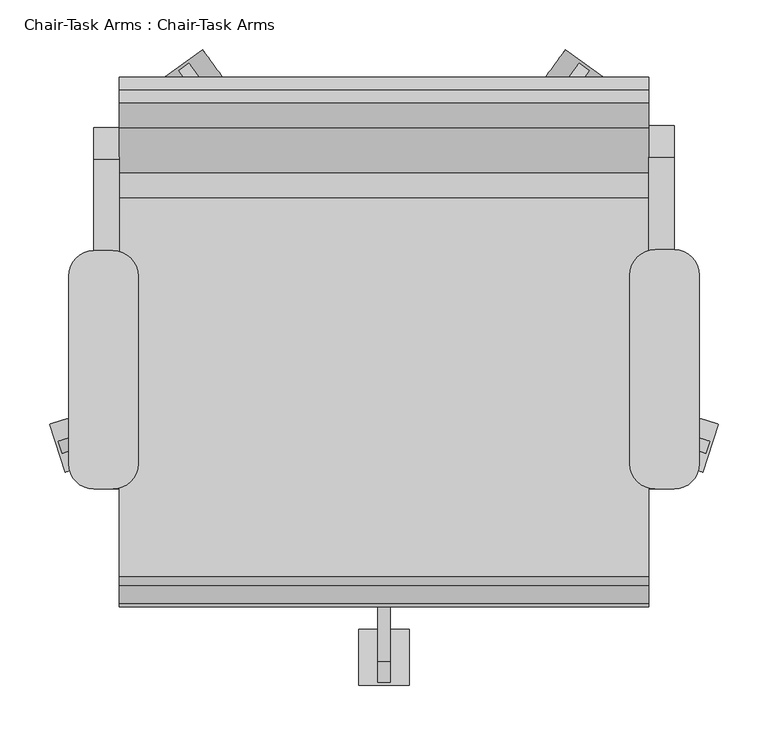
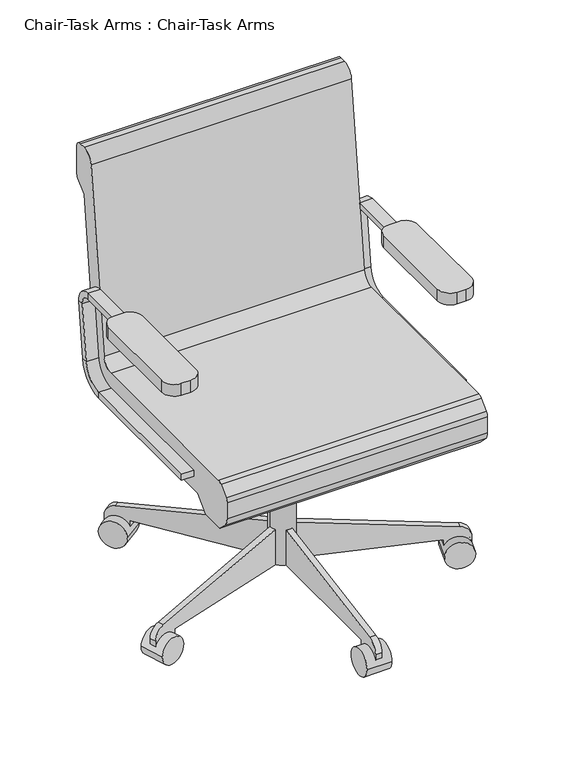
"""IFC4 building model written with IfcOpenShell, lengths in millimetres: furniture geometry, Chair-Task Arms : Chair-Task Arms."""

from ifc_helpers import new_model, si_unit, point, frame, frame_2d, origin, place, context, project, spatial, polyline, circle_curve, trimmed, segment, composite_curve, outline, extrude, source, transform, mapped, element, save
from ifc_brep_helpers import plane_surface, cylinder_surface, revolved_surface, advanced_brep


def chair_task_arms_chair_task_arms_3c69ee15(model_context):
    return source(origin(), model_context, "Body", "SolidModel", [
        extrude(outline(composite_curve([segment(trimmed(circle_curve(frame_2d((433.0908197, 48.8028048)), 25.4), [point((433.0908197, 74.2028048))], [point((458.4908197, 48.8028048))], False, "CARTESIAN"), True, "CONTINUOUS"), segment(polyline([(458.4908197, 48.8028048), (458.4908197, -141.6319091)]), True, "CONTINUOUS"), segment(trimmed(circle_curve(frame_2d((433.0908197, -141.6319091)), 25.4), [point((458.4908197, -141.6319091))], [point((433.0908197, -167.0319091))], False, "CARTESIAN"), True, "CONTINUOUS"), segment(polyline([(433.0908197, -167.0319091), (414.0408197, -167.0319091)]), True, "CONTINUOUS"), segment(trimmed(circle_curve(frame_2d((414.0408197, -141.6319091)), 25.4), [point((414.0408197, -167.0319091))], [point((388.6408197, -141.6319091))], False, "CARTESIAN"), True, "CONTINUOUS"), segment(polyline([(388.6408197, -141.6319091), (388.6408197, 48.8028048)]), True, "CONTINUOUS"), segment(trimmed(circle_curve(frame_2d((414.0408197, 48.8028048)), 25.4), [point((388.6408197, 48.8028048))], [point((414.0408197, 74.2028048))], False, "CARTESIAN"), True, "CONTINUOUS"), segment(polyline([(414.0408197, 74.2028048), (433.0908197, 74.2028048)]), True, "CONTINUOUS")], self_intersect=False)), frame((0.0, 0.0, 596.9), z_axis=(0.0, 0.0, 1.0), x_axis=(1.0, 0.0, 0.0)), (0.0, 0.0, 1.0), 25.4),
        extrude(outline(composite_curve([segment(trimmed(circle_curve(frame_2d((-132.0591803, 47.7575984)), 25.4), [point((-132.0591803, 73.1575984))], [point((-106.6591803, 47.7575984))], False, "CARTESIAN"), True, "CONTINUOUS"), segment(polyline([(-106.6591803, 47.7575984), (-106.6591803, -141.6319091)]), True, "CONTINUOUS"), segment(trimmed(circle_curve(frame_2d((-132.0591803, -141.6319091)), 25.4), [point((-106.6591803, -141.6319091))], [point((-132.0591803, -167.0319091))], False, "CARTESIAN"), True, "CONTINUOUS"), segment(polyline([(-132.0591803, -167.0319091), (-151.1091803, -167.0319091)]), True, "CONTINUOUS"), segment(trimmed(circle_curve(frame_2d((-151.1091803, -141.6319091)), 25.4), [point((-151.1091803, -167.0319091))], [point((-176.5091803, -141.6319091))], False, "CARTESIAN"), True, "CONTINUOUS"), segment(polyline([(-176.5091803, -141.6319091), (-176.5091803, 47.7575984)]), True, "CONTINUOUS"), segment(trimmed(circle_curve(frame_2d((-151.1091803, 47.7575984)), 25.4), [point((-176.5091803, 47.7575984))], [point((-151.1091803, 73.1575984))], False, "CARTESIAN"), True, "CONTINUOUS"), segment(polyline([(-151.1091803, 73.1575984), (-132.0591803, 73.1575984)]), True, "CONTINUOUS")], self_intersect=False)), frame((0.0, 0.0, 596.9), z_axis=(0.0, 0.0, 1.0), x_axis=(1.0, 0.0, 0.0)), (0.0, 0.0, 1.0), 25.4),
        advanced_brep(
        [(-151.1091803, -167.0319091, 412.75), (-125.7091803, -167.0319091, 412.75), (-125.7091803, -167.0319091, 425.45), (-151.1091803, -167.0319091, 425.45), (-151.1091803, 126.2388651, 425.45), (-151.1091803, 126.2388651, 412.75), (-125.7091803, 126.2388651, 425.45), (-125.7091803, 126.2388651, 412.75), (-151.1091803, 170.3844094, 464.7064065), (-151.1091803, 182.9974221, 463.2225227), (-125.7091803, 170.3844094, 464.7064065), (-125.7091803, 182.9974221, 463.2225227), (-151.1091803, 184.1806174, 581.9741742), (-151.1091803, 196.7936301, 580.4902904), (-125.7091803, 184.1806174, 581.9741742), (-125.7091803, 196.7936301, 580.4902904), (-151.1091803, 165.2610984, 603.25), (-151.1091803, 165.2610984, 615.95), (-125.7091803, 165.2610984, 603.25), (-125.7091803, 165.2610984, 615.95), (-151.1091803, -18.9459016, 615.95), (-151.1091803, -18.9459016, 603.25), (-125.7091803, -18.9459016, 603.25), (-125.7091803, -18.9459016, 615.95)],
        [
            (0, 1),
            (1, 2),
            (2, 3),
            (3, 0),
            (3, 4),
            (4, 5),
            (5, 0),
            (2, 6),
            (6, 4),
            (1, 7),
            (7, 6),
            (5, 7),
            (8, 9),
            (9, 5, circle_curve(frame((-151.1091803, 126.2388651, 469.9), z_axis=(-1.0, 0.0, 0.0), x_axis=(0.0, 0.0, -1.0)), 57.15)),
            (4, 8, circle_curve(frame((-151.1091803, 126.2388651, 469.9), z_axis=(1.0, 0.0, 0.0), x_axis=(0.0, 0.0, -1.0)), 44.45)),
            (10, 8),
            (6, 10, circle_curve(frame((-125.7091803, 126.2388651, 469.9), z_axis=(1.0, 0.0, 0.0), x_axis=(0.0, 0.0, -1.0)), 44.45)),
            (11, 10),
            (7, 11, circle_curve(frame((-125.7091803, 126.2388651, 469.9), z_axis=(1.0, 0.0, 0.0), x_axis=(0.0, 0.0, -1.0)), 57.15)),
            (9, 11),
            (8, 12),
            (12, 13),
            (13, 9),
            (10, 14),
            (14, 12),
            (11, 15),
            (15, 14),
            (13, 15),
            (16, 17),
            (17, 13, circle_curve(frame((-151.1091803, 165.2610984, 584.2), z_axis=(-1.0, 0.0, 0.0), x_axis=(0.0, 0.9931506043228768, -0.11684124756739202)), 31.75)),
            (12, 16, circle_curve(frame((-151.1091803, 165.2610984, 584.2), z_axis=(1.0, 0.0, 0.0), x_axis=(0.0, 0.9931506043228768, -0.11684124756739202)), 19.05)),
            (18, 16),
            (14, 18, circle_curve(frame((-125.7091803, 165.2610984, 584.2), z_axis=(1.0, 0.0, 0.0), x_axis=(0.0, 0.9931506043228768, -0.11684124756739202)), 19.05)),
            (19, 18),
            (15, 19, circle_curve(frame((-125.7091803, 165.2610984, 584.2), z_axis=(1.0, 0.0, 0.0), x_axis=(0.0, 0.9931506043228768, -0.11684124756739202)), 31.75)),
            (17, 19),
            (20, 21),
            (21, 22),
            (22, 23),
            (23, 20),
            (16, 21),
            (20, 17),
            (18, 22),
            (19, 23),
        ],
        [
            plane_surface(frame((-152.608212, -167.0319091, 419.1), z_axis=(0.0, -1.0, 0.0), x_axis=(0.0, 0.0, -1.0))),
            plane_surface(frame((-151.1091803, -167.0319091, 412.75), z_axis=(-1.0, 0.0, 0.0), x_axis=(0.0, 1.0, 0.0))),
            plane_surface(frame((-151.1091803, -167.0319091, 425.45), z_axis=(0.0, 0.0, 1.0), x_axis=(0.0, 1.0, 0.0))),
            plane_surface(frame((-125.7091803, -167.0319091, 425.45), z_axis=(1.0, 0.0, 0.0), x_axis=(0.0, 1.0, 0.0))),
            plane_surface(frame((-125.7091803, -167.0319091, 412.75), z_axis=(0.0, 0.0, -1.0), x_axis=(0.0, 1.0, 0.0))),
            plane_surface(frame((-151.1091803, 126.2388651, 469.9), z_axis=(-1.0, 0.0, 0.0), x_axis=(0.0, 0.0, -1.0))),
            revolved_surface(polyline([(-151.1091803, 126.2388651, 425.45), (-125.7091803, 126.2388651, 425.45)]), (-138.4091803, 126.2388651, 469.9), (-1.0, 0.0, 0.0)),
            plane_surface(frame((-125.7091803, 126.2388651, 469.9), z_axis=(1.0, 0.0, 0.0), x_axis=(0.0, 0.0, -1.0))),
            cylinder_surface(frame((-138.4091803, 126.2388651, 469.9), z_axis=(-1.0, 0.0, 0.0), x_axis=(0.0, 0.0, -1.0)), 57.15),
            plane_surface(frame((-151.1091803, 182.9974221, 463.2225227), z_axis=(-1.0, 0.0, 0.0), x_axis=(0.0, 0.1168412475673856, 0.9931506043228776))),
            plane_surface(frame((-151.1091803, 170.3844094, 464.7064065), z_axis=(0.0, -0.9931506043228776, 0.1168412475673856), x_axis=(0.0, 0.1168412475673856, 0.9931506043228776))),
            plane_surface(frame((-125.7091803, 170.3844094, 464.7064065), z_axis=(1.0, 0.0, 0.0), x_axis=(0.0, 0.1168412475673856, 0.9931506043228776))),
            plane_surface(frame((-125.7091803, 182.9974221, 463.2225227), z_axis=(0.0, 0.9931506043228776, -0.1168412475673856), x_axis=(0.0, 0.1168412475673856, 0.9931506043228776))),
            plane_surface(frame((-151.1091803, 165.2610984, 584.2), z_axis=(-1.0, 0.0, 0.0), x_axis=(0.0, 0.9931506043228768, -0.11684124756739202))),
            revolved_surface(polyline([(-151.1091803, 184.1806174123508, 581.9741742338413), (-125.7091803, 184.1806174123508, 581.9741742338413)]), (-138.4091803, 165.2610984, 584.2), (-1.0, 0.0, 0.0)),
            plane_surface(frame((-125.7091803, 165.2610984, 584.2), z_axis=(1.0, 0.0, 0.0), x_axis=(0.0, 0.9931506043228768, -0.11684124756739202))),
            cylinder_surface(frame((-138.4091803, 165.2610984, 584.2), z_axis=(-1.0, 0.0, 0.0), x_axis=(0.0, 0.9931506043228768, -0.11684124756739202)), 31.75),
            plane_surface(frame((-152.608212, -18.9459016, 609.6), z_axis=(0.0, -1.0, 0.0), x_axis=(0.0, 0.0, 1.0))),
            plane_surface(frame((-151.1091803, 165.2610984, 615.95), z_axis=(-1.0, 0.0, 0.0), x_axis=(0.0, -1.0, 0.0))),
            plane_surface(frame((-151.1091803, 165.2610984, 603.25), z_axis=(0.0, 0.0, -1.0), x_axis=(0.0, -1.0, 0.0))),
            plane_surface(frame((-125.7091803, 165.2610984, 603.25), z_axis=(1.0, 0.0, 0.0), x_axis=(0.0, -1.0, 0.0))),
            plane_surface(frame((-125.7091803, 165.2610984, 615.95), z_axis=(0.0, 0.0, 1.0), x_axis=(0.0, -1.0, 0.0))),
        ],
        [
            (0, [[1, 2, 3, 4]]),
            (1, [[5, 6, 7, -4]]),
            (2, [[8, 9, -5, -3]]),
            (3, [[10, 11, -8, -2]]),
            (4, [[-7, 12, -10, -1]]),
            (5, [[13, 14, -6, 15]]),
            (6, [[16, -15, -9, 17]]),
            (7, [[18, -17, -11, 19]]),
            (8, [[20, -19, -12, -14]]),
            (9, [[21, 22, 23, -13]]),
            (10, [[24, 25, -21, -16]]),
            (11, [[26, 27, -24, -18]]),
            (12, [[-23, 28, -26, -20]]),
            (13, [[29, 30, -22, 31]]),
            (14, [[32, -31, -25, 33]]),
            (15, [[34, -33, -27, 35]]),
            (16, [[36, -35, -28, -30]]),
            (17, [[37, 38, 39, 40]]),
            (18, [[41, -37, 42, -29]]),
            (19, [[43, -38, -41, -32]]),
            (20, [[44, -39, -43, -34]]),
            (21, [[-42, -40, -44, -36]]),
        ],
    ),
        advanced_brep(
        [(433.0908197, -167.0319091, 425.45), (407.6908197, -167.0319091, 425.45), (407.6908197, -167.0319091, 412.75), (433.0908197, -167.0319091, 412.75), (433.0908197, 128.329278, 412.75), (433.0908197, 128.329278, 425.45), (407.6908197, 128.329278, 412.75), (407.6908197, 128.329278, 425.45), (433.0908197, 185.0878351, 463.2225227), (433.0908197, 172.4748224, 464.7064065), (407.6908197, 185.0878351, 463.2225227), (407.6908197, 172.4748224, 464.7064065), (433.0908197, 198.884043, 580.4902904), (433.0908197, 186.2710303, 581.9741742), (407.6908197, 198.884043, 580.4902904), (407.6908197, 186.2710303, 581.9741742), (433.0908197, 167.3515113, 615.95), (433.0908197, 167.3515113, 603.25), (407.6908197, 167.3515113, 615.95), (407.6908197, 167.3515113, 603.25), (433.0908197, -18.9459016, 603.25), (433.0908197, -18.9459016, 615.95), (407.6908197, -18.9459016, 615.95), (407.6908197, -18.9459016, 603.25)],
        [
            (0, 1),
            (1, 2),
            (2, 3),
            (3, 0),
            (3, 4),
            (4, 5),
            (5, 0),
            (2, 6),
            (6, 4),
            (1, 7),
            (7, 6),
            (5, 7),
            (8, 9),
            (9, 5, circle_curve(frame((433.0908197, 128.329278, 469.9), z_axis=(-1.0, 0.0, 0.0), x_axis=(0.0, 0.0, -1.0)), 44.45)),
            (4, 8, circle_curve(frame((433.0908197, 128.329278, 469.9), z_axis=(1.0, 0.0, 0.0), x_axis=(0.0, 0.0, -1.0)), 57.15)),
            (10, 8),
            (6, 10, circle_curve(frame((407.6908197, 128.329278, 469.9), z_axis=(1.0, 0.0, 0.0), x_axis=(0.0, 0.0, -1.0)), 57.15)),
            (11, 10),
            (7, 11, circle_curve(frame((407.6908197, 128.329278, 469.9), z_axis=(1.0, 0.0, 0.0), x_axis=(0.0, 0.0, -1.0)), 44.45)),
            (9, 11),
            (8, 12),
            (12, 13),
            (13, 9),
            (10, 14),
            (14, 12),
            (11, 15),
            (15, 14),
            (13, 15),
            (16, 17),
            (17, 13, circle_curve(frame((433.0908197, 167.3515113, 584.2), z_axis=(-1.0, 0.0, 0.0), x_axis=(0.0, 0.9931506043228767, -0.1168412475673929)), 19.05)),
            (12, 16, circle_curve(frame((433.0908197, 167.3515113, 584.2), z_axis=(1.0, 0.0, 0.0), x_axis=(0.0, 0.9931506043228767, -0.1168412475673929)), 31.75)),
            (18, 16),
            (14, 18, circle_curve(frame((407.6908197, 167.3515113, 584.2), z_axis=(1.0, 0.0, 0.0), x_axis=(0.0, 0.9931506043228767, -0.1168412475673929)), 31.75)),
            (19, 18),
            (15, 19, circle_curve(frame((407.6908197, 167.3515113, 584.2), z_axis=(1.0, 0.0, 0.0), x_axis=(0.0, 0.9931506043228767, -0.1168412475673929)), 19.05)),
            (17, 19),
            (20, 21),
            (21, 22),
            (22, 23),
            (23, 20),
            (16, 21),
            (20, 17),
            (18, 22),
            (19, 23),
        ],
        [
            plane_surface(frame((406.191788, -167.0319091, 419.1), z_axis=(0.0, -1.0, 0.0), x_axis=(0.0, 0.0, -1.0))),
            plane_surface(frame((433.0908197, -167.0319091, 425.45), z_axis=(1.0, 0.0, 0.0), x_axis=(0.0, 1.0, 0.0))),
            plane_surface(frame((433.0908197, -167.0319091, 412.75), z_axis=(0.0, 0.0, -1.0), x_axis=(0.0, 1.0, 0.0))),
            plane_surface(frame((407.6908197, -167.0319091, 412.75), z_axis=(-1.0, 0.0, 0.0), x_axis=(0.0, 1.0, 0.0))),
            plane_surface(frame((407.6908197, -167.0319091, 425.45), z_axis=(0.0, 0.0, 1.0), x_axis=(0.0, 1.0, 0.0))),
            plane_surface(frame((433.0908197, 128.329278, 469.9), z_axis=(1.0, 0.0, 0.0), x_axis=(0.0, 0.0, -1.0))),
            cylinder_surface(frame((420.3908197, 128.329278, 469.9), z_axis=(-1.0, 0.0, 0.0), x_axis=(0.0, 0.0, -1.0)), 57.15),
            plane_surface(frame((407.6908197, 128.329278, 469.9), z_axis=(-1.0, 0.0, 0.0), x_axis=(0.0, 0.0, -1.0))),
            revolved_surface(polyline([(407.6908197, 128.329278, 425.45), (433.0908197, 128.329278, 425.45)]), (420.3908197, 128.329278, 469.9), (-1.0, 0.0, 0.0)),
            plane_surface(frame((433.0908197, 172.4748224, 464.7064065), z_axis=(1.0, 0.0, 0.0), x_axis=(0.0, 0.11684124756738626, 0.9931506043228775))),
            plane_surface(frame((433.0908197, 185.0878351, 463.2225227), z_axis=(0.0, 0.9931506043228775, -0.11684124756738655), x_axis=(0.0, 0.11684124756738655, 0.9931506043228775))),
            plane_surface(frame((407.6908197, 185.0878351, 463.2225227), z_axis=(-1.0, 0.0, 0.0), x_axis=(0.0, 0.11684124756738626, 0.9931506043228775))),
            plane_surface(frame((407.6908197, 172.4748224, 464.7064065), z_axis=(0.0, -0.9931506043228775, 0.11684124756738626), x_axis=(0.0, 0.11684124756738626, 0.9931506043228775))),
            plane_surface(frame((433.0908197, 167.3515113, 584.2), z_axis=(1.0, 0.0, 0.0), x_axis=(0.0, 0.9931506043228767, -0.1168412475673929))),
            cylinder_surface(frame((420.3908197, 167.3515113, 584.2), z_axis=(-1.0, 0.0, 0.0), x_axis=(0.0, 0.9931506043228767, -0.1168412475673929)), 31.75),
            plane_surface(frame((407.6908197, 167.3515113, 584.2), z_axis=(-1.0, 0.0, 0.0), x_axis=(0.0, 0.9931506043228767, -0.1168412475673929))),
            revolved_surface(polyline([(407.6908197, 186.2710303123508, 581.9741742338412), (433.0908197, 186.2710303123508, 581.9741742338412)]), (420.3908197, 167.3515113, 584.2), (-1.0, 0.0, 0.0)),
            plane_surface(frame((406.191788, -18.9459016, 609.6), z_axis=(0.0, -1.0, 0.0), x_axis=(0.0, 0.0, 1.0))),
            plane_surface(frame((433.0908197, 167.3515113, 603.25), z_axis=(1.0, 0.0, 0.0), x_axis=(0.0, -1.0, 0.0))),
            plane_surface(frame((433.0908197, 167.3515113, 615.95), z_axis=(0.0, 0.0, 1.0), x_axis=(0.0, -1.0, 0.0))),
            plane_surface(frame((407.6908197, 167.3515113, 615.95), z_axis=(-1.0, 0.0, 0.0), x_axis=(0.0, -1.0, 0.0))),
            plane_surface(frame((407.6908197, 167.3515113, 603.25), z_axis=(0.0, 0.0, -1.0), x_axis=(0.0, -1.0, 0.0))),
        ],
        [
            (0, [[1, 2, 3, 4]]),
            (1, [[5, 6, 7, -4]]),
            (2, [[8, 9, -5, -3]]),
            (3, [[10, 11, -8, -2]]),
            (4, [[-7, 12, -10, -1]]),
            (5, [[13, 14, -6, 15]]),
            (6, [[16, -15, -9, 17]]),
            (7, [[18, -17, -11, 19]]),
            (8, [[20, -19, -12, -14]]),
            (9, [[21, 22, 23, -13]]),
            (10, [[24, 25, -21, -16]]),
            (11, [[26, 27, -24, -18]]),
            (12, [[-23, 28, -26, -20]]),
            (13, [[29, 30, -22, 31]]),
            (14, [[32, -31, -25, 33]]),
            (15, [[34, -33, -27, 35]]),
            (16, [[36, -35, -28, -30]]),
            (17, [[37, 38, 39, 40]]),
            (18, [[41, -37, 42, -29]]),
            (19, [[43, -38, -41, -32]]),
            (20, [[44, -39, -43, -34]]),
            (21, [[-42, -40, -44, -36]]),
        ],
    ),
        extrude(outline(composite_curve([segment(trimmed(circle_curve(frame_2d((140.9908197, -18.9459016)), 25.4), [point((115.5908197, -18.9459016))], [point((166.3908197, -18.9459016))], False, "CARTESIAN"), True, "CONTINUOUS"), segment(trimmed(circle_curve(frame_2d((140.9908197, -18.9459016)), 25.4), [point((166.3908197, -18.9459016))], [point((115.5908197, -18.9459016))], False, "CARTESIAN"), True, "CONTINUOUS")], self_intersect=False)), frame((0.0, 0.0, 53.5835944), z_axis=(0.0, 0.0, 1.0), x_axis=(1.0, 0.0, 0.0)), (0.0, 0.0, 1.0), 330.5914056),
        extrude(outline(composite_curve([segment(trimmed(circle_curve(frame_2d((0.0, 28.2002728)), 28.2002727), [point((0.0, 56.4005455))], [point((0.0, 0.0))], False, "CARTESIAN"), True, "CONTINUOUS"), segment(trimmed(circle_curve(frame_2d((0.0, 28.2002728)), 28.2002727), [point((0.0, 0.0))], [point((0.0, 56.4005455))], False, "CARTESIAN"), True, "CONTINUOUS")], self_intersect=False)), frame((461.9222851, -149.9299964, 28.1835944), z_axis=(0.3090169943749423, 0.9510565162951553, 0.0), x_axis=(0.0, 0.0, -1.0)), (0.0, 0.0, 1.0), 50.8),
        extrude(outline(composite_curve([segment(polyline([(25.4, 0.0), (0.0, 0.0), (0.0, 50.8), (24.303053, 50.8)]), True, "CONTINUOUS"), segment(trimmed(circle_curve(frame_2d((24.303053, 25.4)), 25.4), [point((24.303053, 50.8))], [point((49.3171699, 29.8106636))], False, "CARTESIAN"), True, "CONTINUOUS"), segment(polyline([(49.3171699, 29.8106636), (101.6, -266.7), (101.6, -292.1), (25.4, -292.1), (25.4, 0.0)]), True, "CONTINUOUS")], self_intersect=False)), frame((416.8321702, -115.2489746, 28.1835944), z_axis=(0.3090169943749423, 0.9510565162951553, 0.0), x_axis=(0.0, 0.0, 1.0)), (0.0, 0.0, 1.0), 12.7),
        extrude(outline(composite_curve([segment(trimmed(circle_curve(frame_2d((0.0, 28.2002726)), 28.2002727), [point((0.0, 56.4005454))], [point((0.0, 0.0))], False, "CARTESIAN"), True, "CONTINUOUS"), segment(trimmed(circle_curve(frame_2d((0.0, 28.2002726)), 28.2002727), [point((0.0, 0.0))], [point((0.0, 56.4005454))], False, "CARTESIAN"), True, "CONTINUOUS")], self_intersect=False)), frame((364.7373733, 245.8017485, 28.1835944), z_axis=(-0.8090169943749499, 0.5877852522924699, 0.0), x_axis=(0.0, 0.0, -1.0)), (0.0, 0.0, 1.0), 50.8),
        extrude(outline(composite_curve([segment(polyline([(25.4, 0.0), (0.0, 0.0), (0.0, 50.8), (24.303053, 50.8)]), True, "CONTINUOUS"), segment(trimmed(circle_curve(frame_2d((24.303053, 25.3999999)), 25.4), [point((24.303053, 50.8))], [point((49.3171699, 29.8106637))], False, "CARTESIAN"), True, "CONTINUOUS"), segment(polyline([(49.3171699, 29.8106637), (101.6, -266.7), (101.6, -292.1), (25.4, -292.1), (25.4, 0.0)]), True, "CONTINUOUS")], self_intersect=False)), frame((317.8201498, 213.6355261, 28.1835944), z_axis=(-0.8090169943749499, 0.5877852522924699, 0.0), x_axis=(0.0, 0.0, 1.0)), (0.0, 0.0, 1.0), 12.7),
        extrude(outline(composite_curve([segment(trimmed(circle_curve(frame_2d((0.0, 28.2002726)), 28.2002727), [point((0.0, 56.4005454))], [point((0.0, 0.0))], False, "CARTESIAN"), True, "CONTINUOUS"), segment(trimmed(circle_curve(frame_2d((0.0, 28.2002726)), 28.2002727), [point((0.0, 0.0))], [point((0.0, 56.4005454))], False, "CARTESIAN"), True, "CONTINUOUS")], self_intersect=False)), frame((-82.755734, 245.8017485, 28.1835944), z_axis=(0.8090169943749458, 0.5877852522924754, 0.0), x_axis=(0.0, 0.0, 1.0)), (0.0, 0.0, 1.0), 50.8),
        extrude(outline(composite_curve([segment(polyline([(-25.4, 0.0), (-25.4, -292.1), (-101.6, -292.1), (-101.6, -266.6999999), (-49.3171699, 29.8106637)]), True, "CONTINUOUS"), segment(trimmed(circle_curve(frame_2d((-24.303053, 25.3999999)), 25.4), [point((-49.3171699, 29.8106637))], [point((-24.303053, 50.8))], False, "CARTESIAN"), True, "CONTINUOUS"), segment(polyline([(-24.303053, 50.8), (0.0, 50.8), (0.0, 0.0), (-25.4, 0.0)]), True, "CONTINUOUS")], self_intersect=False)), frame((-35.8385104, 213.6355261, 28.1835944), z_axis=(0.8090169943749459, 0.5877852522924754, 0.0), x_axis=(0.0, 0.0, -1.0)), (0.0, 0.0, 1.0), 12.7),
        extrude(outline(composite_curve([segment(trimmed(circle_curve(frame_2d((0.0, 28.2002727)), 28.2002727), [point((0.0, 56.4005454))], [point((0.0, 0.0))], False, "CARTESIAN"), True, "CONTINUOUS"), segment(trimmed(circle_curve(frame_2d((0.0, 28.2002727)), 28.2002727), [point((0.0, 0.0))], [point((0.0, 56.4005454))], False, "CARTESIAN"), True, "CONTINUOUS")], self_intersect=False)), frame((-179.9406457, -149.9299964, 28.1835944), z_axis=(-0.3090169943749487, 0.9510565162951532, 0.0), x_axis=(0.0, 0.0, 1.0)), (0.0, 0.0, 1.0), 50.8),
        extrude(outline(composite_curve([segment(polyline([(-25.4, 0.0), (-25.4, -292.1), (-101.6, -292.1), (-101.6, -266.7), (-49.3171699, 29.8106637)]), True, "CONTINUOUS"), segment(trimmed(circle_curve(frame_2d((-24.303053, 25.4)), 25.4), [point((-49.3171699, 29.8106637))], [point((-24.303053, 50.8000001))], False, "CARTESIAN"), True, "CONTINUOUS"), segment(polyline([(-24.303053, 50.8000001), (0.0, 50.8000001), (0.0, 0.0), (-25.4, 0.0)]), True, "CONTINUOUS")], self_intersect=False)), frame((-134.8505308, -115.2489746, 28.1835944), z_axis=(-0.3090169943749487, 0.9510565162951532, 0.0), x_axis=(0.0, 0.0, -1.0)), (0.0, 0.0, 1.0), 12.7),
        extrude(outline(composite_curve([segment(trimmed(circle_curve(frame_2d((-336.4459016, 28.1835944)), 28.2002727), [point((-308.2456289, 28.1835944))], [point((-364.6461744, 28.1835944))], False, "CARTESIAN"), True, "CONTINUOUS"), segment(trimmed(circle_curve(frame_2d((-336.4459016, 28.1835944)), 28.2002727), [point((-364.6461744, 28.1835944))], [point((-308.2456289, 28.1835944))], False, "CARTESIAN"), True, "CONTINUOUS")], self_intersect=False)), frame((115.5908197, 0.0, 0.0), z_axis=(1.0, 0.0, 0.0), x_axis=(0.0, 1.0, 0.0)), (0.0, 0.0, 1.0), 50.8),
        extrude(outline(composite_curve([segment(polyline([(-311.0459016, 53.5835944), (-311.0459016, 28.1835944), (-361.8459016, 28.1835944), (-361.8459016, 52.4866474)]), True, "CONTINUOUS"), segment(trimmed(circle_curve(frame_2d((-336.4459016, 52.4866474)), 25.4), [point((-361.8459016, 52.4866474))], [point((-340.8565654, 77.5007643))], False, "CARTESIAN"), True, "CONTINUOUS"), segment(polyline([(-340.8565654, 77.5007643), (-44.3459016, 129.7835944), (-18.9459016, 129.7835944), (-18.9459016, 53.5835944), (-311.0459016, 53.5835944)]), True, "CONTINUOUS")], self_intersect=False)), frame((134.6408197, 0.0, 0.0), z_axis=(1.0, 0.0, 0.0), x_axis=(0.0, 1.0, 0.0)), (0.0, 0.0, 1.0), 12.7),
        extrude(outline(polyline([(-69.7459016, 383.7835944), (19.1540984, 383.7835944), (19.1540984, 283.0954134), (-18.9459016, 283.0954134), (-69.7459016, 371.0835944), (-69.7459016, 383.7835944)])), frame((90.1908197, 0.0, 0.0), z_axis=(1.0, 0.0, 0.0), x_axis=(0.0, 1.0, 0.0)), (0.0, 0.0, 1.0), 101.6),
        extrude(outline(composite_curve([segment(trimmed(circle_curve(frame_2d((126.2050455, 482.6)), 25.4), [point((126.2050455, 457.2))], [point((151.4310708, 479.6322323))], True, "CARTESIAN"), True, "CONTINUOUS"), segment(polyline([(151.4310708, 479.6322323), (196.9528985, 866.5677677)]), True, "CONTINUOUS"), segment(trimmed(circle_curve(frame_2d((222.1789239, 863.6)), 25.4), [point((196.9528985, 866.5677677))], [point((222.1789239, 889.0))], False, "CARTESIAN"), True, "CONTINUOUS"), segment(polyline([(222.1789239, 889.0), (235.0540984, 889.0)]), True, "CONTINUOUS"), segment(trimmed(circle_curve(frame_2d((235.0540984, 876.3)), 12.7), [point((235.0540984, 889.0))], [point((247.7540984, 876.3))], False, "CARTESIAN"), True, "CONTINUOUS"), segment(polyline([(247.7540984, 876.3), (247.7540984, 818.0605122)]), True, "CONTINUOUS"), segment(trimmed(circle_curve(frame_2d((235.0540984, 818.0605122)), 12.7), [point((247.7540984, 818.0605122))], [point((244.0343545, 809.0802561))], False, "CARTESIAN"), True, "CONTINUOUS"), segment(polyline([(244.0343545, 809.0802561), (222.3540984, 787.4), (182.7870738, 451.0802913)]), True, "CONTINUOUS"), segment(trimmed(circle_curve(frame_2d((107.1089978, 459.9835944)), 76.2), [point((182.7870738, 451.0802913))], [point((107.1089978, 383.7835944))], False, "CARTESIAN"), True, "CONTINUOUS"), segment(polyline([(107.1089978, 383.7835944), (-181.0744602, 383.7835944), (-209.4470284, 355.6), (-260.2470284, 355.6), (-278.2663256, 373.7401184)]), True, "CONTINUOUS"), segment(trimmed(circle_curve(frame_2d((-260.2459016, 391.6405184)), 25.4), [point((-278.2663256, 373.7401184))], [point((-285.6459016, 391.6405184))], False, "CARTESIAN"), True, "CONTINUOUS"), segment(polyline([(-285.6459016, 391.6405184), (-285.6459016, 426.6837879)]), True, "CONTINUOUS"), segment(trimmed(circle_curve(frame_2d((-272.9459016, 426.6837879)), 12.7), [point((-285.6459016, 426.6837879))], [point((-281.8961016, 435.6939999))], False, "CARTESIAN"), True, "CONTINUOUS"), segment(polyline([(-281.8961016, 435.6939999), (-263.9604301, 453.510212)]), True, "CONTINUOUS"), segment(trimmed(circle_curve(frame_2d((-255.0102301, 444.5)), 12.7), [point((-263.9604301, 453.510212))], [point((-255.0102301, 457.2))], False, "CARTESIAN"), True, "CONTINUOUS"), segment(polyline([(-255.0102301, 457.2), (126.2050455, 457.2)]), True, "CONTINUOUS")], self_intersect=False)), frame((-125.7091803, 0.0, 0.0), z_axis=(1.0, 0.0, 0.0), x_axis=(0.0, 1.0, 0.0)), (0.0, 0.0, 1.0), 533.4),
    ])


if __name__ == "__main__":
    model = new_model("IFC4")
    model_context = context("Model", 3, world=origin())
    ifc_project = project(units=[si_unit("LENGTHUNIT", "METRE", prefix="MILLI")], contexts=[model_context])
    site = spatial("IfcSite", under=ifc_project)
    building = spatial("IfcBuilding", under=site)
    placement = place(None, origin())
    chair_task_arms_chair_task_arms_shape = chair_task_arms_chair_task_arms_3c69ee15(model_context)
    element("IfcFurniture", 1, ObjectType="Chair-Task Arms : Chair-Task Arms", at=placement, inside=building, context=model_context, shape_type="MappedRepresentation", body=[
        mapped(chair_task_arms_chair_task_arms_shape, transform((0.0, 0.0, 0.0), x_axis=(1.0, 0.0, 0.0), y_axis=(0.0, 1.0, 0.0), z_axis=(0.0, 0.0, 1.0))),
    ])
    save(model, "model.ifc")
